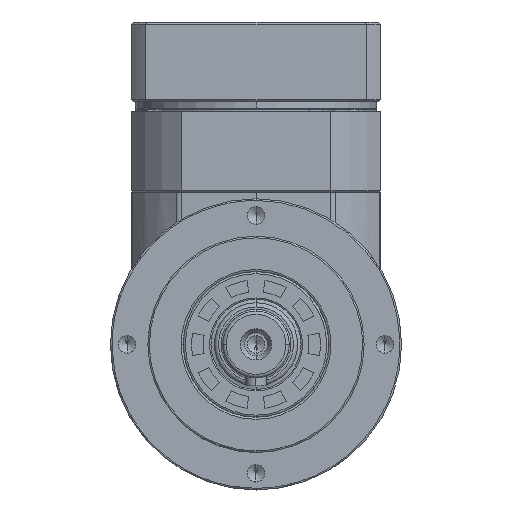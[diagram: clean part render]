
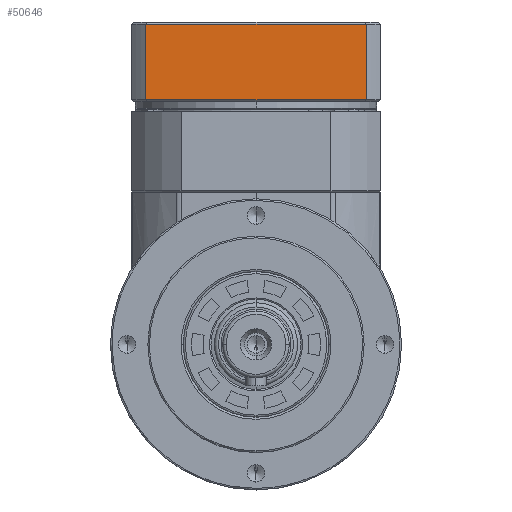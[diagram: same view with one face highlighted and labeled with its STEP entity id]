
A CAD part, left-side view. The second image highlights one B-rep face of the part: STEP entity #50646.
In plain terms, the highlighted planar face has unit normal (-1, 0, 0).
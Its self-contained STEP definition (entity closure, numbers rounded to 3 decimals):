
#1992 = ORIENTED_EDGE ( 'NONE', *, *, #14264, .T. ) ;
#2236 = VERTEX_POINT ( 'NONE', #9359 ) ;
#2411 = VERTEX_POINT ( 'NONE', #24683 ) ;
#2447 = CARTESIAN_POINT ( 'NONE',  ( -66.465, -0.462, 54.331 ) ) ;
#4247 = CARTESIAN_POINT ( 'NONE',  ( -66.465, -0.462, 105.331 ) ) ;
#6843 = VERTEX_POINT ( 'NONE', #39916 ) ;
#6952 = FACE_OUTER_BOUND ( 'NONE', #16234, .T. ) ;
#7457 = CARTESIAN_POINT ( 'NONE',  ( -66.465, -26.92, 111.631 ) ) ;
#9359 = CARTESIAN_POINT ( 'NONE',  ( -66.465, -53.377, 129.831 ) ) ;
#11971 = DIRECTION ( 'NONE',  ( 0., -1., 0. ) ) ;
#13372 = LINE ( 'NONE', #35929, #17642 ) ;
#14264 = EDGE_CURVE ( 'NONE', #6843, #2236, #13372, .T. ) ;
#14959 = EDGE_CURVE ( 'NONE', #2236, #20346, #48430, .T. ) ;
#15729 = VECTOR ( 'NONE', #17137, 1000. ) ;
#16234 = EDGE_LOOP ( 'NONE', ( #55303, #1992, #43519, #31219 ) ) ;
#17137 = DIRECTION ( 'NONE',  ( 0., 1., 0. ) ) ;
#17642 = VECTOR ( 'NONE', #48343, 1000. ) ;
#19560 = EDGE_CURVE ( 'NONE', #2411, #20346, #45444, .T. ) ;
#20346 = VERTEX_POINT ( 'NONE', #45235 ) ;
#20779 = DIRECTION ( 'NONE',  ( -1., 0., 0. ) ) ;
#21779 = VECTOR ( 'NONE', #59336, 1000. ) ;
#24683 = CARTESIAN_POINT ( 'NONE',  ( -66.465, -0.462, 111.631 ) ) ;
#25916 = AXIS2_PLACEMENT_3D ( 'NONE', #2447, #20779, #39134 ) ;
#31219 = ORIENTED_EDGE ( 'NONE', *, *, #19560, .F. ) ;
#35929 = CARTESIAN_POINT ( 'NONE',  ( -66.465, -53.377, 54.331 ) ) ;
#39134 = DIRECTION ( 'NONE',  ( 0., 0., 1. ) ) ;
#39916 = CARTESIAN_POINT ( 'NONE',  ( -66.465, -53.377, 111.631 ) ) ;
#43519 = ORIENTED_EDGE ( 'NONE', *, *, #14959, .T. ) ;
#43652 = PLANE ( 'NONE',  #25916 ) ;
#45038 = LINE ( 'NONE', #7457, #48938 ) ;
#45235 = CARTESIAN_POINT ( 'NONE',  ( -66.465, -0.462, 129.831 ) ) ;
#45444 = LINE ( 'NONE', #4247, #21779 ) ;
#48343 = DIRECTION ( 'NONE',  ( 0., 0., 1. ) ) ;
#48430 = LINE ( 'NONE', #58384, #15729 ) ;
#48783 = EDGE_CURVE ( 'NONE', #2411, #6843, #45038, .T. ) ;
#48938 = VECTOR ( 'NONE', #11971, 1000. ) ;
#50646 = ADVANCED_FACE ( 'NONE', ( #6952 ), #43652, .T. ) ;
#55303 = ORIENTED_EDGE ( 'NONE', *, *, #48783, .T. ) ;
#58384 = CARTESIAN_POINT ( 'NONE',  ( -66.465, -0.462, 129.831 ) ) ;
#59336 = DIRECTION ( 'NONE',  ( 0., 0., 1. ) ) ;
